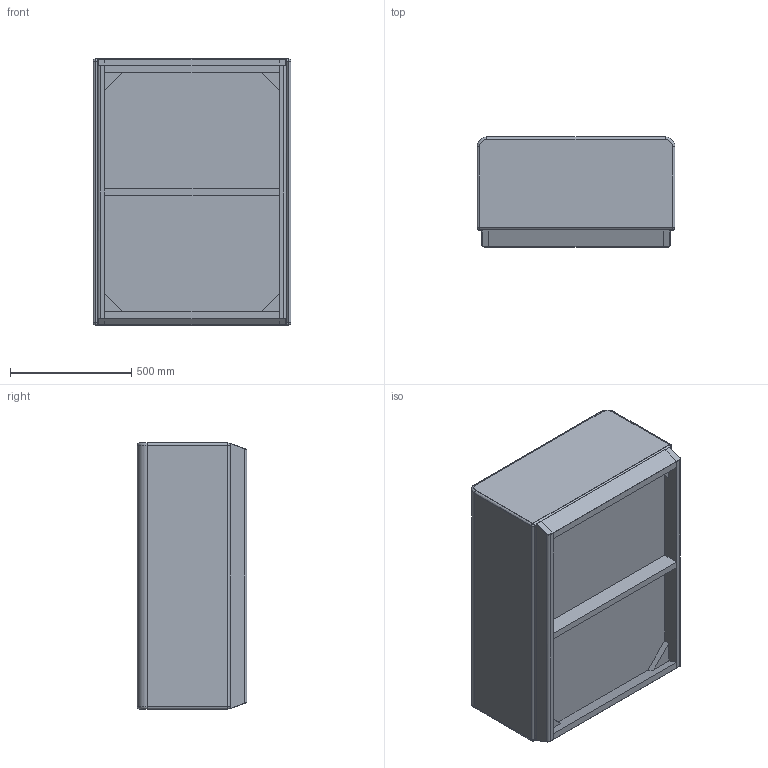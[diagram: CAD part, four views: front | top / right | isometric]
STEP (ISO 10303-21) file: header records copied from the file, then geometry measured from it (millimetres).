
FILE_DESCRIPTION(/* description */ (''),/* implementation_level */ '2;1');
FILE_NAME(/* name */ '1OH-0020 - Ohio 2-Seater Bench - STEP (Simplified).stp',/* time_stamp */ '2025-11-13T11:46:16Z',/* author */ ('craig.ferris'),/* organization */ (''),/* preprocessor_version */ 'ST-DEVELOPER v20',/* originating_system */ 'Autodesk Inventor 2025',/* authorisation */ '');
FILE_SCHEMA (('AUTOMOTIVE_DESIGN { 1 0 10303 214 3 1 1 }'));
Length unit declared in the file: millimetre
Products named in the file (1): 1OH-0020 - Ohio 2-Seater Bench (Simplified)
Bounding box: 818 x 453 x 1100 mm (x, y, z)
Volume: 47270066.3 mm3; surface area: 9868162.4 mm2
Topology: 15 solids, 15 shells, 162 faces, 340 edges, 196 vertices
Faces by surface type: plane 94, cylinder 44, sphere 12, torus 8, bspline 4
Entity records: 4346 total; most frequent: CARTESIAN_POINT 887, DIRECTION 730, ORIENTED_EDGE 656, EDGE_CURVE 328, AXIS2_PLACEMENT_3D 251, LINE 228, VECTOR 228, VERTEX_POINT 196
